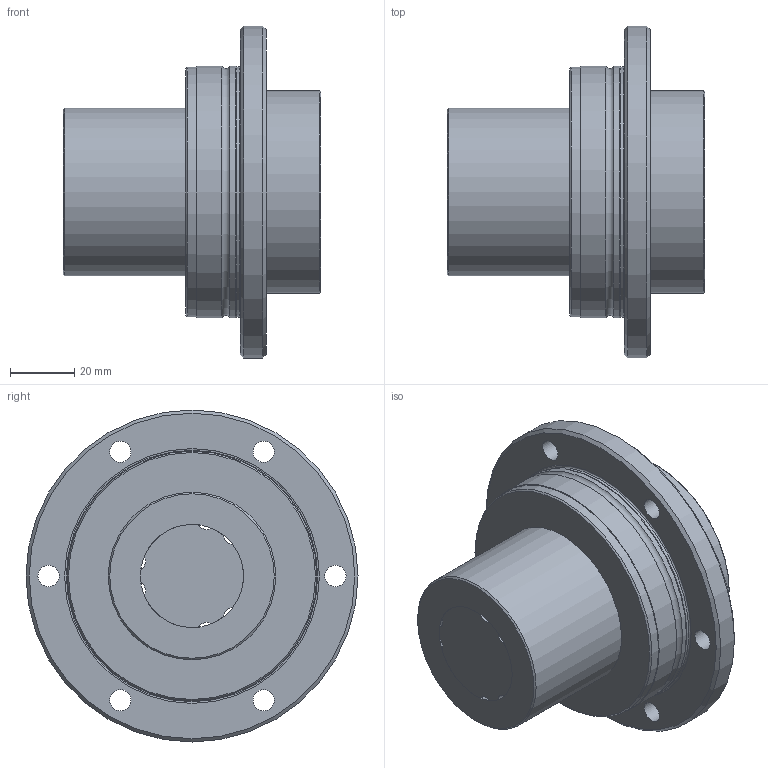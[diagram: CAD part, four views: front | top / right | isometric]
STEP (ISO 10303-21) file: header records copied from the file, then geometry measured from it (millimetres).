
FILE_DESCRIPTION(/* description */ ('STEP AP203'),/* implementation_level */ '2;1');
FILE_NAME(/* name */ 'LTR32A+80L(0_0)',/* time_stamp */ '2024-05-28T07:52:21+02:00',/* author */ ('License CC BY-ND 4.0'),/* organization */ ('CADENAS'),/* preprocessor_version */ 'ST-DEVELOPER v19.3',/* originating_system */ 'PARTsolutions',/* authorisation */ ' ');
FILE_SCHEMA (('CONFIG_CONTROL_DESIGN'));
Length unit declared in the file: millimetre
Products named in the file (3): LTR32A+80L(0,0); LTR 32A80 LTRA Shaft; LTR 32A LTRA ACyl
Assembly tree (3 placements, depth 2):
  LTR32A+80L(0,0)
    LTR 32A80 LTRA Shaft
    LTR 32A LTRA ACyl  x2
Bounding box: 80 x 103 x 103 mm (x, y, z)
Volume: 483519.2 mm3; surface area: 94402.4 mm2
Topology: 3 solids, 3 shells, 110 faces, 254 edges, 160 vertices
Faces by surface type: cylinder 54, cone 34, plane 16, torus 6
Full cylindrical faces by diameter (mm): 4.917 x12, 6.6 x12, 32 x2, 52 x2, 63 x2, 72 x2, 77.5 x2, 77.6 x2, 78 x4, 103 x2
Entity records: 1599 total; most frequent: DIRECTION 300, CARTESIAN_POINT 240, ORIENTED_EDGE 180, AXIS2_PLACEMENT_3D 144, FACE_BOUND 128, EDGE_LOOP 122, EDGE_CURVE 90, VERTEX_POINT 84
